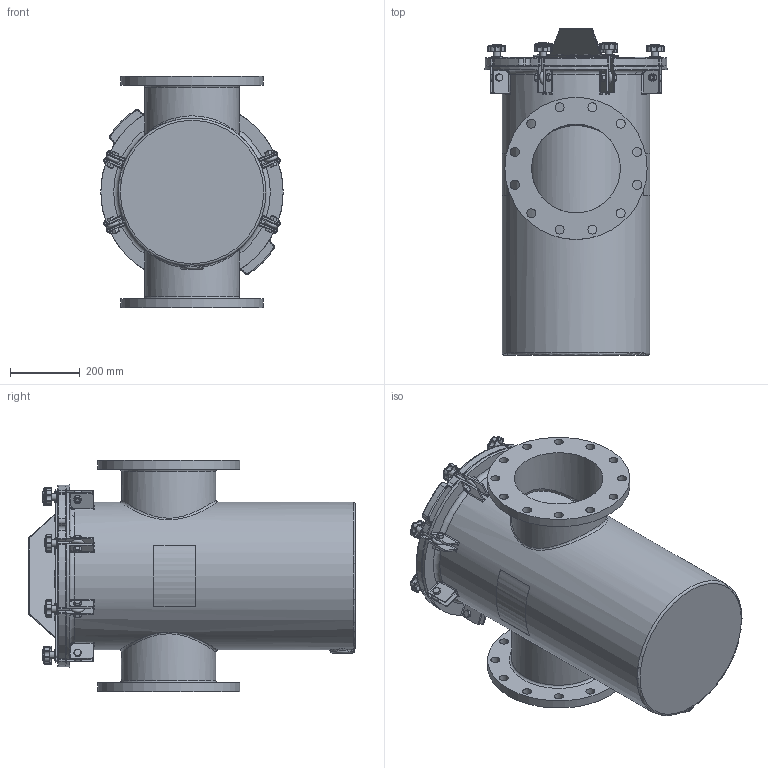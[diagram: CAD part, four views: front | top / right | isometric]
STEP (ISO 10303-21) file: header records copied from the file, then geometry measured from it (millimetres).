
FILE_DESCRIPTION(/* description */ ('STRAINER BODY'),/* implementation_level */ '2;1');
FILE_NAME(/* name */ '\\chntshnas1\IP_PUMPS\NeptuneBenson\Project Execution\WIP\Ready for delivery - Do not Disturb -Updated with metric Flange\Workspace\FG Straight Strainer\1500NBFG10R1.stp',/* time_stamp */ '2016-10-18T19:38:59+05:00',/* author */ ('20076253'),/* organization */ (''),/* preprocessor_version */ 'ST-DEVELOPER v16.1',/* originating_system */ 'Autodesk Inventor 2016',/* authorisation */ '');
FILE_SCHEMA (('AUTOMOTIVE_DESIGN { 1 0 10303 214 3 1 1 }'));
Length unit declared in the file: inch
Products named in the file (24): NBFG10BODYR1; 150NBCVR20R2; 150NBGSK16R1; Perforated Basket 16in; Bride (Ring) 16in; Baffle 16in; Handle 16in; Bottom Strainer 16in; NBBSK10T316; BRACESTRCVR16_Welds; BRACE (BASE) FOR 16 BODY; BRACE (PROJ) FOR 16 BODY; Bumper; BRACESTRCVR16; Nut- 1_2  UNC; Bolt-1_2 x 1 1_2  UNC; EyeBolt; Washer; Knob M10; Securing Assembly For FG  with Brace; Securing Assembly For FG without Brace; Label for 16.625 inch (Right); Label for 16.625 inch (Left); Guardian FG H&L Strainer (Inch)
Assembly tree (39 placements, depth 3):
  Guardian FG H&L Strainer (Inch)
    NBFG10BODYR1
    150NBCVR20R2
    150NBGSK16R1
    NBBSK10T316
      Perforated Basket 16in
      Bride (Ring) 16in
      Baffle 16in
      Handle 16in
      Bottom Strainer 16in
    BRACESTRCVR16
      BRACESTRCVR16_Welds
      BRACE (BASE) FOR 16 BODY
      BRACE (PROJ) FOR 16 BODY
      Bumper  x6
    Securing Assembly For FG  with Brace  x2
      Nut- 1_2  UNC
      Bolt-1_2 x 1 1_2  UNC
      EyeBolt
      Washer
      Knob M10
    Securing Assembly For FG without Brace  x6
      Nut- 1_2  UNC
      Bolt-1_2 x 1 1_2  UNC
      EyeBolt
      Washer
      Knob M10
    Label for 16.625 inch (Right)
    Label for 16.625 inch (Left)
Bounding box: 520.7 x 933.45 x 660.4 mm (x, y, z)
Volume: 22954965.5 mm3; surface area: 5675393.5 mm2
Topology: 66 solids, 66 shells, 1815 faces, 4135 edges, 2442 vertices
Faces by surface type: cylinder 665, plane 500, cone 184, torus 167, sphere 158, bspline 141
Full cylindrical faces by diameter (mm): 3.175 x11, 6.35 x1, 8.382 x8, 9.525 x16, 10.592 x8, 12.7 x8, 15.875 x16, 19 x16, 19.05 x8, 22.809 x1, 25.4 x24, 31.75 x8, 254 x2, 269.875 x2, 295.275 x2, 298.45 x1, 300.99 x1, 406.4 x4, 409.575 x1, 415.925 x1, 422.275 x1, 457.2 x1, 463.55 x1
Entity records: 33988 total; most frequent: CARTESIAN_POINT 10957, DIRECTION 4763, ORIENTED_EDGE 4338, EDGE_CURVE 2169, AXIS2_PLACEMENT_3D 1958, VERTEX_POINT 1360, EDGE_LOOP 1189, ADVANCED_FACE 965
